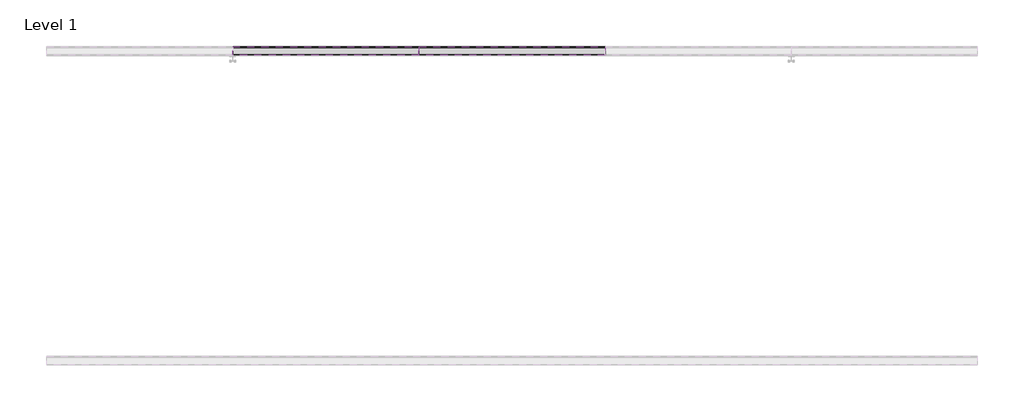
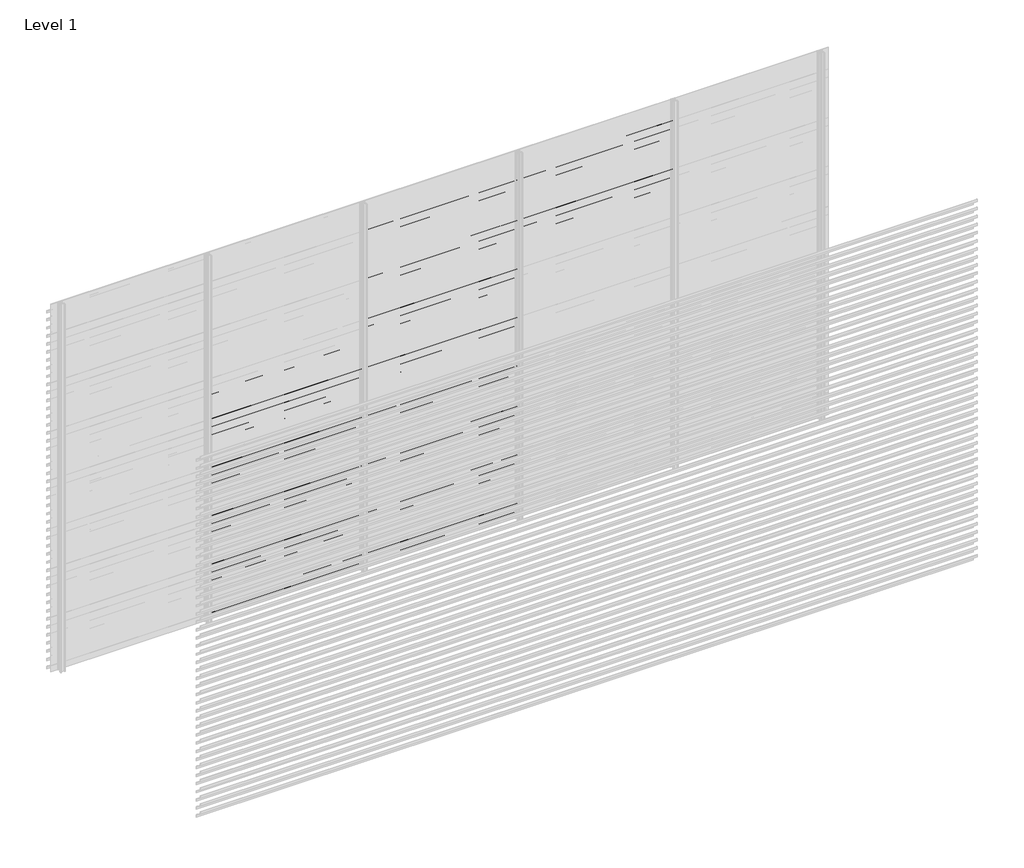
# One storey, part 32 of 540: 84 proxies.
"""IFC4 building model written with IfcOpenShell, lengths in millimetres."""

from ifc_helpers import new_model, si_unit, frame, origin, place, context, project, spatial, polyline, outline, extrude, element, save

model = new_model("IFC4")

# Units and contexts
model_context = context("Model", 3, world=origin())
ifc_project = project(units=[si_unit("LENGTHUNIT", "METRE", prefix="MILLI")], contexts=[model_context])

# Site, building, storey
site = spatial("IfcSite", under=ifc_project)
building = spatial("IfcBuilding", under=site)
storey = spatial("IfcBuildingStorey", under=building, Name="Level 1", Elevation=0.0)

# Proxies
placement = place(None, origin())
element("IfcBuildingElementProxy", 1, Name="Wall Sweeps", at=placement, inside=storey, context=model_context, shape_type="SweptSolid", body=[
    extrude(outline(polyline([(21581.0540136, 1791.5), (21581.0540136, 1771.5), (21579.8040136, 1772.2216933), (21579.8040136, 1790.7872415), (21526.0540136, 1828.3158044), (21526.0540136, 1848.0), (21527.3040136, 1848.0), (21527.3040136, 1829.0285629), (21581.0540136, 1791.5)])), frame((1666.6208099, 0.0, 0.0), z_axis=(1.0, 0.0, 0.0), x_axis=(0.0, 1.0, 0.0)), (0.0, 0.0, 1.0), 1199.9999999),
])
element("IfcBuildingElementProxy", 2, Name="Wall Sweeps", at=placement, inside=storey, context=model_context, shape_type="SweptSolid", body=[
    extrude(outline(polyline([(21581.0540136, 1725.5), (21581.0540136, 1705.5), (21579.8040136, 1706.2216933), (21579.8040136, 1724.7872415), (21526.0540136, 1762.3158044), (21526.0540136, 1782.0), (21527.3040136, 1782.0), (21527.3040136, 1763.0285629), (21581.0540136, 1725.5)])), frame((1666.6208099, 0.0, 0.0), z_axis=(1.0, 0.0, 0.0), x_axis=(0.0, 1.0, 0.0)), (0.0, 0.0, 1.0), 1199.9999999),
])
element("IfcBuildingElementProxy", 3, Name="Wall Sweeps", at=placement, inside=storey, context=model_context, shape_type="SweptSolid", body=[
    extrude(outline(polyline([(21581.0540136, 1659.5), (21581.0540136, 1639.5), (21579.8040136, 1640.2216933), (21579.8040136, 1658.7872415), (21526.0540136, 1696.3158044), (21526.0540136, 1716.0), (21527.3040136, 1716.0), (21527.3040136, 1697.0285629), (21581.0540136, 1659.5)])), frame((1666.6208099, 0.0, 0.0), z_axis=(1.0, 0.0, 0.0), x_axis=(0.0, 1.0, 0.0)), (0.0, 0.0, 1.0), 1199.9999999),
])
element("IfcBuildingElementProxy", 4, Name="Wall Sweeps", at=placement, inside=storey, context=model_context, shape_type="SweptSolid", body=[
    extrude(outline(polyline([(21581.0540136, 1593.5), (21581.0540136, 1573.5), (21579.8040136, 1574.2216933), (21579.8040136, 1592.7872415), (21526.0540136, 1630.3158044), (21526.0540136, 1650.0), (21527.3040136, 1650.0), (21527.3040136, 1631.0285629), (21581.0540136, 1593.5)])), frame((1666.6208099, 0.0, 0.0), z_axis=(1.0, 0.0, 0.0), x_axis=(0.0, 1.0, 0.0)), (0.0, 0.0, 1.0), 1199.9999999),
])
element("IfcBuildingElementProxy", 5, Name="Wall Sweeps", at=placement, inside=storey, context=model_context, shape_type="SweptSolid", body=[
    extrude(outline(polyline([(21581.0540136, 1527.5), (21581.0540136, 1507.5), (21579.8040136, 1508.2216933), (21579.8040136, 1526.7872415), (21526.0540136, 1564.3158044), (21526.0540136, 1584.0), (21527.3040136, 1584.0), (21527.3040136, 1565.0285629), (21581.0540136, 1527.5)])), frame((1666.6208099, 0.0, 0.0), z_axis=(1.0, 0.0, 0.0), x_axis=(0.0, 1.0, 0.0)), (0.0, 0.0, 1.0), 1199.9999999),
])
element("IfcBuildingElementProxy", 6, Name="Wall Sweeps", at=placement, inside=storey, context=model_context, shape_type="SweptSolid", body=[
    extrude(outline(polyline([(21581.0540136, 1461.5), (21581.0540136, 1441.5), (21579.8040136, 1442.2216933), (21579.8040136, 1460.7872415), (21526.0540136, 1498.3158044), (21526.0540136, 1518.0), (21527.3040136, 1518.0), (21527.3040136, 1499.0285629), (21581.0540136, 1461.5)])), frame((1666.6208099, 0.0, 0.0), z_axis=(1.0, 0.0, 0.0), x_axis=(0.0, 1.0, 0.0)), (0.0, 0.0, 1.0), 1199.9999999),
])
element("IfcBuildingElementProxy", 7, Name="Wall Sweeps", at=placement, inside=storey, context=model_context, shape_type="SweptSolid", body=[
    extrude(outline(polyline([(21581.0540136, 1395.5), (21581.0540136, 1375.5), (21579.8040136, 1376.2216933), (21579.8040136, 1394.7872415), (21526.0540136, 1432.3158044), (21526.0540136, 1452.0), (21527.3040136, 1452.0), (21527.3040136, 1433.0285629), (21581.0540136, 1395.5)])), frame((1666.6208099, 0.0, 0.0), z_axis=(1.0, 0.0, 0.0), x_axis=(0.0, 1.0, 0.0)), (0.0, 0.0, 1.0), 1199.9999999),
])
element("IfcBuildingElementProxy", 8, Name="Wall Sweeps", at=placement, inside=storey, context=model_context, shape_type="SweptSolid", body=[
    extrude(outline(polyline([(21581.0540136, 1329.5), (21581.0540136, 1309.5), (21579.8040136, 1310.2216933), (21579.8040136, 1328.7872415), (21526.0540136, 1366.3158044), (21526.0540136, 1386.0), (21527.3040136, 1386.0), (21527.3040136, 1367.0285629), (21581.0540136, 1329.5)])), frame((1666.6208099, 0.0, 0.0), z_axis=(1.0, 0.0, 0.0), x_axis=(0.0, 1.0, 0.0)), (0.0, 0.0, 1.0), 1199.9999999),
])
element("IfcBuildingElementProxy", 9, Name="Wall Sweeps", at=placement, inside=storey, context=model_context, shape_type="SweptSolid", body=[
    extrude(outline(polyline([(21581.0540136, 1263.5), (21581.0540136, 1243.5), (21579.8040136, 1244.2216933), (21579.8040136, 1262.7872415), (21526.0540136, 1300.3158044), (21526.0540136, 1320.0), (21527.3040136, 1320.0), (21527.3040136, 1301.0285629), (21581.0540136, 1263.5)])), frame((1666.6208099, 0.0, 0.0), z_axis=(1.0, 0.0, 0.0), x_axis=(0.0, 1.0, 0.0)), (0.0, 0.0, 1.0), 1199.9999999),
])
element("IfcBuildingElementProxy", 10, Name="Wall Sweeps", at=placement, inside=storey, context=model_context, shape_type="SweptSolid", body=[
    extrude(outline(polyline([(21581.0540136, 1197.5), (21581.0540136, 1177.5), (21579.8040136, 1178.2216933), (21579.8040136, 1196.7872415), (21526.0540136, 1234.3158044), (21526.0540136, 1254.0), (21527.3040136, 1254.0), (21527.3040136, 1235.0285629), (21581.0540136, 1197.5)])), frame((1666.6208099, 0.0, 0.0), z_axis=(1.0, 0.0, 0.0), x_axis=(0.0, 1.0, 0.0)), (0.0, 0.0, 1.0), 1199.9999999),
])
element("IfcBuildingElementProxy", 11, Name="Wall Sweeps", at=placement, inside=storey, context=model_context, shape_type="SweptSolid", body=[
    extrude(outline(polyline([(21581.0540136, 1131.5), (21581.0540136, 1111.5), (21579.8040136, 1112.2216933), (21579.8040136, 1130.7872415), (21526.0540136, 1168.3158044), (21526.0540136, 1188.0), (21527.3040136, 1188.0), (21527.3040136, 1169.0285629), (21581.0540136, 1131.5)])), frame((1666.6208099, 0.0, 0.0), z_axis=(1.0, 0.0, 0.0), x_axis=(0.0, 1.0, 0.0)), (0.0, 0.0, 1.0), 1199.9999999),
])
element("IfcBuildingElementProxy", 12, Name="Wall Sweeps", at=placement, inside=storey, context=model_context, shape_type="SweptSolid", body=[
    extrude(outline(polyline([(21581.0540136, 1065.5), (21581.0540136, 1045.5), (21579.8040136, 1046.2216933), (21579.8040136, 1064.7872415), (21526.0540136, 1102.3158044), (21526.0540136, 1122.0), (21527.3040136, 1122.0), (21527.3040136, 1103.0285629), (21581.0540136, 1065.5)])), frame((1666.6208099, 0.0, 0.0), z_axis=(1.0, 0.0, 0.0), x_axis=(0.0, 1.0, 0.0)), (0.0, 0.0, 1.0), 1199.9999999),
])
element("IfcBuildingElementProxy", 13, Name="Wall Sweeps", at=placement, inside=storey, context=model_context, shape_type="SweptSolid", body=[
    extrude(outline(polyline([(21581.0540136, 999.5), (21581.0540136, 979.5), (21579.8040136, 980.2216933), (21579.8040136, 998.7872415), (21526.0540136, 1036.3158044), (21526.0540136, 1056.0), (21527.3040136, 1056.0), (21527.3040136, 1037.0285629), (21581.0540136, 999.5)])), frame((1666.6208099, 0.0, 0.0), z_axis=(1.0, 0.0, 0.0), x_axis=(0.0, 1.0, 0.0)), (0.0, 0.0, 1.0), 1199.9999999),
])
element("IfcBuildingElementProxy", 14, Name="Wall Sweeps", at=placement, inside=storey, context=model_context, shape_type="SweptSolid", body=[
    extrude(outline(polyline([(21581.0540136, 933.5), (21581.0540136, 913.5), (21579.8040136, 914.2216933), (21579.8040136, 932.7872415), (21526.0540136, 970.3158044), (21526.0540136, 990.0), (21527.3040136, 990.0), (21527.3040136, 971.0285629), (21581.0540136, 933.5)])), frame((1666.6208099, 0.0, 0.0), z_axis=(1.0, 0.0, 0.0), x_axis=(0.0, 1.0, 0.0)), (0.0, 0.0, 1.0), 1199.9999999),
])
element("IfcBuildingElementProxy", 15, Name="Wall Sweeps", at=placement, inside=storey, context=model_context, shape_type="SweptSolid", body=[
    extrude(outline(polyline([(21581.0540136, 867.5), (21581.0540136, 847.5), (21579.8040136, 848.2216933), (21579.8040136, 866.7872415), (21526.0540136, 904.3158044), (21526.0540136, 924.0), (21527.3040136, 924.0), (21527.3040136, 905.0285629), (21581.0540136, 867.5)])), frame((1666.6208099, 0.0, 0.0), z_axis=(1.0, 0.0, 0.0), x_axis=(0.0, 1.0, 0.0)), (0.0, 0.0, 1.0), 1199.9999999),
])
element("IfcBuildingElementProxy", 16, Name="Wall Sweeps", at=placement, inside=storey, context=model_context, shape_type="SweptSolid", body=[
    extrude(outline(polyline([(21581.0540136, 801.5), (21581.0540136, 781.5), (21579.8040136, 782.2216933), (21579.8040136, 800.7872415), (21526.0540136, 838.3158044), (21526.0540136, 858.0), (21527.3040136, 858.0), (21527.3040136, 839.0285629), (21581.0540136, 801.5)])), frame((1666.6208099, 0.0, 0.0), z_axis=(1.0, 0.0, 0.0), x_axis=(0.0, 1.0, 0.0)), (0.0, 0.0, 1.0), 1199.9999999),
])
element("IfcBuildingElementProxy", 17, Name="Wall Sweeps", at=placement, inside=storey, context=model_context, shape_type="SweptSolid", body=[
    extrude(outline(polyline([(21581.0540136, 735.5), (21581.0540136, 715.5), (21579.8040136, 716.2216933), (21579.8040136, 734.7872415), (21526.0540136, 772.3158044), (21526.0540136, 792.0), (21527.3040136, 792.0), (21527.3040136, 773.0285629), (21581.0540136, 735.5)])), frame((1666.6208099, 0.0, 0.0), z_axis=(1.0, 0.0, 0.0), x_axis=(0.0, 1.0, 0.0)), (0.0, 0.0, 1.0), 1199.9999999),
])
element("IfcBuildingElementProxy", 18, Name="Wall Sweeps", at=placement, inside=storey, context=model_context, shape_type="SweptSolid", body=[
    extrude(outline(polyline([(21581.0540136, 669.5), (21581.0540136, 649.5), (21579.8040136, 650.2216933), (21579.8040136, 668.7872415), (21526.0540136, 706.3158044), (21526.0540136, 726.0), (21527.3040136, 726.0), (21527.3040136, 707.0285629), (21581.0540136, 669.5)])), frame((1666.6208099, 0.0, 0.0), z_axis=(1.0, 0.0, 0.0), x_axis=(0.0, 1.0, 0.0)), (0.0, 0.0, 1.0), 1199.9999999),
])
element("IfcBuildingElementProxy", 19, Name="Wall Sweeps", at=placement, inside=storey, context=model_context, shape_type="SweptSolid", body=[
    extrude(outline(polyline([(21581.0540136, 603.5), (21581.0540136, 583.5), (21579.8040136, 584.2216933), (21579.8040136, 602.7872415), (21526.0540136, 640.3158044), (21526.0540136, 660.0), (21527.3040136, 660.0), (21527.3040136, 641.0285629), (21581.0540136, 603.5)])), frame((1666.6208099, 0.0, 0.0), z_axis=(1.0, 0.0, 0.0), x_axis=(0.0, 1.0, 0.0)), (0.0, 0.0, 1.0), 1199.9999999),
])
element("IfcBuildingElementProxy", 20, Name="Wall Sweeps", at=placement, inside=storey, context=model_context, shape_type="SweptSolid", body=[
    extrude(outline(polyline([(21581.0540136, 537.5), (21581.0540136, 517.5), (21579.8040136, 518.2216933), (21579.8040136, 536.7872415), (21526.0540136, 574.3158044), (21526.0540136, 594.0), (21527.3040136, 594.0), (21527.3040136, 575.0285629), (21581.0540136, 537.5)])), frame((1666.6208099, 0.0, 0.0), z_axis=(1.0, 0.0, 0.0), x_axis=(0.0, 1.0, 0.0)), (0.0, 0.0, 1.0), 1199.9999999),
])
element("IfcBuildingElementProxy", 21, Name="Wall Sweeps", at=placement, inside=storey, context=model_context, shape_type="SweptSolid", body=[
    extrude(outline(polyline([(21581.0540136, 471.5), (21581.0540136, 451.5), (21579.8040136, 452.2216933), (21579.8040136, 470.7872415), (21526.0540136, 508.3158044), (21526.0540136, 528.0), (21527.3040136, 528.0), (21527.3040136, 509.0285629), (21581.0540136, 471.5)])), frame((1666.6208099, 0.0, 0.0), z_axis=(1.0, 0.0, 0.0), x_axis=(0.0, 1.0, 0.0)), (0.0, 0.0, 1.0), 1199.9999999),
])
element("IfcBuildingElementProxy", 22, Name="Wall Sweeps", at=placement, inside=storey, context=model_context, shape_type="SweptSolid", body=[
    extrude(outline(polyline([(21581.0540136, 405.5), (21581.0540136, 385.5), (21579.8040136, 386.2216933), (21579.8040136, 404.7872415), (21526.0540136, 442.3158044), (21526.0540136, 462.0), (21527.3040136, 462.0), (21527.3040136, 443.0285629), (21581.0540136, 405.5)])), frame((1666.6208099, 0.0, 0.0), z_axis=(1.0, 0.0, 0.0), x_axis=(0.0, 1.0, 0.0)), (0.0, 0.0, 1.0), 1199.9999999),
])
element("IfcBuildingElementProxy", 23, Name="Wall Sweeps", at=placement, inside=storey, context=model_context, shape_type="SweptSolid", body=[
    extrude(outline(polyline([(21581.0540136, 339.5), (21581.0540136, 319.5), (21579.8040136, 320.2216933), (21579.8040136, 338.7872415), (21526.0540136, 376.3158044), (21526.0540136, 396.0), (21527.3040136, 396.0), (21527.3040136, 377.0285629), (21581.0540136, 339.5)])), frame((1666.6208099, 0.0, 0.0), z_axis=(1.0, 0.0, 0.0), x_axis=(0.0, 1.0, 0.0)), (0.0, 0.0, 1.0), 1199.9999999),
])
element("IfcBuildingElementProxy", 24, Name="Wall Sweeps", at=placement, inside=storey, context=model_context, shape_type="SweptSolid", body=[
    extrude(outline(polyline([(21581.0540136, 273.5), (21581.0540136, 253.5), (21579.8040136, 254.2216933), (21579.8040136, 272.7872415), (21526.0540136, 310.3158044), (21526.0540136, 330.0), (21527.3040136, 330.0), (21527.3040136, 311.0285629), (21581.0540136, 273.5)])), frame((1666.6208099, 0.0, 0.0), z_axis=(1.0, 0.0, 0.0), x_axis=(0.0, 1.0, 0.0)), (0.0, 0.0, 1.0), 1199.9999999),
])
element("IfcBuildingElementProxy", 25, Name="Wall Sweeps", at=placement, inside=storey, context=model_context, shape_type="SweptSolid", body=[
    extrude(outline(polyline([(21581.0540136, 207.5), (21581.0540136, 187.5), (21579.8040136, 188.2216933), (21579.8040136, 206.7872415), (21526.0540136, 244.3158044), (21526.0540136, 264.0), (21527.3040136, 264.0), (21527.3040136, 245.0285629), (21581.0540136, 207.5)])), frame((1666.6208099, 0.0, 0.0), z_axis=(1.0, 0.0, 0.0), x_axis=(0.0, 1.0, 0.0)), (0.0, 0.0, 1.0), 1199.9999999),
])
element("IfcBuildingElementProxy", 26, Name="Wall Sweeps", at=placement, inside=storey, context=model_context, shape_type="SweptSolid", body=[
    extrude(outline(polyline([(21581.0540136, 141.5), (21581.0540136, 121.5), (21579.8040136, 122.2216933), (21579.8040136, 140.7872415), (21526.0540136, 178.3158044), (21526.0540136, 198.0), (21527.3040136, 198.0), (21527.3040136, 179.0285629), (21581.0540136, 141.5)])), frame((1666.6208099, 0.0, 0.0), z_axis=(1.0, 0.0, 0.0), x_axis=(0.0, 1.0, 0.0)), (0.0, 0.0, 1.0), 1199.9999999),
])
element("IfcBuildingElementProxy", 27, Name="Wall Sweeps", at=placement, inside=storey, context=model_context, shape_type="SweptSolid", body=[
    extrude(outline(polyline([(21581.0540136, 75.5), (21581.0540136, 55.5), (21579.8040136, 56.2216933), (21579.8040136, 74.7872415), (21526.0540136, 112.3158044), (21526.0540136, 132.0), (21527.3040136, 132.0), (21527.3040136, 113.0285629), (21581.0540136, 75.5)])), frame((1666.6208099, 0.0, 0.0), z_axis=(1.0, 0.0, 0.0), x_axis=(0.0, 1.0, 0.0)), (0.0, 0.0, 1.0), 1199.9999999),
])
element("IfcBuildingElementProxy", 28, Name="Wall Sweeps", at=placement, inside=storey, context=model_context, shape_type="SweptSolid", body=[
    extrude(outline(polyline([(21581.0540136, 9.5), (21581.0540136, -10.5), (21579.8040136, -9.7783067), (21579.8040136, 8.7872415), (21526.0540136, 46.3158044), (21526.0540136, 66.0), (21527.3040136, 66.0), (21527.3040136, 47.0285629), (21581.0540136, 9.5)])), frame((1666.6208099, 0.0, 0.0), z_axis=(1.0, 0.0, 0.0), x_axis=(0.0, 1.0, 0.0)), (0.0, 0.0, 1.0), 1199.9999999),
])
element("IfcBuildingElementProxy", 29, Name="Wall Sweeps", at=placement, inside=storey, context=model_context, shape_type="SweptSolid", body=[
    extrude(outline(polyline([(21581.0540136, 2913.5), (21581.0540136, 2893.5), (21579.8040136, 2894.2216933), (21579.8040136, 2912.7872415), (21526.0540136, 2950.3158044), (21526.0540136, 2970.0), (21527.3040136, 2970.0), (21527.3040136, 2951.0285629), (21581.0540136, 2913.5)])), frame((2866.6208097, 0.0, 0.0), z_axis=(1.0, 0.0, 0.0), x_axis=(0.0, 1.0, 0.0)), (0.0, 0.0, 1.0), 1199.9999999),
])
element("IfcBuildingElementProxy", 30, Name="Wall Sweeps", at=placement, inside=storey, context=model_context, shape_type="SweptSolid", body=[
    extrude(outline(polyline([(21581.0540136, 2847.5), (21581.0540136, 2827.5), (21579.8040136, 2828.2216933), (21579.8040136, 2846.7872415), (21526.0540136, 2884.3158044), (21526.0540136, 2904.0), (21527.3040136, 2904.0), (21527.3040136, 2885.0285629), (21581.0540136, 2847.5)])), frame((2866.6208097, 0.0, 0.0), z_axis=(1.0, 0.0, 0.0), x_axis=(0.0, 1.0, 0.0)), (0.0, 0.0, 1.0), 1199.9999999),
])
element("IfcBuildingElementProxy", 31, Name="Wall Sweeps", at=placement, inside=storey, context=model_context, shape_type="SweptSolid", body=[
    extrude(outline(polyline([(21581.0540136, 2781.5), (21581.0540136, 2761.5), (21579.8040136, 2762.2216933), (21579.8040136, 2780.7872415), (21526.0540136, 2818.3158044), (21526.0540136, 2838.0), (21527.3040136, 2838.0), (21527.3040136, 2819.0285629), (21581.0540136, 2781.5)])), frame((2866.6208097, 0.0, 0.0), z_axis=(1.0, 0.0, 0.0), x_axis=(0.0, 1.0, 0.0)), (0.0, 0.0, 1.0), 1199.9999999),
])
element("IfcBuildingElementProxy", 32, Name="Wall Sweeps", at=placement, inside=storey, context=model_context, shape_type="SweptSolid", body=[
    extrude(outline(polyline([(21581.0540136, 2715.5), (21581.0540136, 2695.5), (21579.8040136, 2696.2216933), (21579.8040136, 2714.7872415), (21526.0540136, 2752.3158044), (21526.0540136, 2772.0), (21527.3040136, 2772.0), (21527.3040136, 2753.0285629), (21581.0540136, 2715.5)])), frame((2866.6208097, 0.0, 0.0), z_axis=(1.0, 0.0, 0.0), x_axis=(0.0, 1.0, 0.0)), (0.0, 0.0, 1.0), 1199.9999999),
])
element("IfcBuildingElementProxy", 33, Name="Wall Sweeps", at=placement, inside=storey, context=model_context, shape_type="SweptSolid", body=[
    extrude(outline(polyline([(21581.0540136, 2649.5), (21581.0540136, 2629.5), (21579.8040136, 2630.2216933), (21579.8040136, 2648.7872415), (21526.0540136, 2686.3158044), (21526.0540136, 2706.0), (21527.3040136, 2706.0), (21527.3040136, 2687.0285629), (21581.0540136, 2649.5)])), frame((2866.6208097, 0.0, 0.0), z_axis=(1.0, 0.0, 0.0), x_axis=(0.0, 1.0, 0.0)), (0.0, 0.0, 1.0), 1199.9999999),
])
element("IfcBuildingElementProxy", 34, Name="Wall Sweeps", at=placement, inside=storey, context=model_context, shape_type="SweptSolid", body=[
    extrude(outline(polyline([(21581.0540136, 2583.5), (21581.0540136, 2563.5), (21579.8040136, 2564.2216933), (21579.8040136, 2582.7872415), (21526.0540136, 2620.3158044), (21526.0540136, 2640.0), (21527.3040136, 2640.0), (21527.3040136, 2621.0285629), (21581.0540136, 2583.5)])), frame((2866.6208097, 0.0, 0.0), z_axis=(1.0, 0.0, 0.0), x_axis=(0.0, 1.0, 0.0)), (0.0, 0.0, 1.0), 1199.9999999),
])
element("IfcBuildingElementProxy", 35, Name="Wall Sweeps", at=placement, inside=storey, context=model_context, shape_type="SweptSolid", body=[
    extrude(outline(polyline([(21581.0540136, 2517.5), (21581.0540136, 2497.5), (21579.8040136, 2498.2216933), (21579.8040136, 2516.7872415), (21526.0540136, 2554.3158044), (21526.0540136, 2574.0), (21527.3040136, 2574.0), (21527.3040136, 2555.0285629), (21581.0540136, 2517.5)])), frame((2866.6208097, 0.0, 0.0), z_axis=(1.0, 0.0, 0.0), x_axis=(0.0, 1.0, 0.0)), (0.0, 0.0, 1.0), 1199.9999999),
])
element("IfcBuildingElementProxy", 36, Name="Wall Sweeps", at=placement, inside=storey, context=model_context, shape_type="SweptSolid", body=[
    extrude(outline(polyline([(21581.0540136, 2451.5), (21581.0540136, 2431.5), (21579.8040136, 2432.2216933), (21579.8040136, 2450.7872415), (21526.0540136, 2488.3158044), (21526.0540136, 2508.0), (21527.3040136, 2508.0), (21527.3040136, 2489.0285629), (21581.0540136, 2451.5)])), frame((2866.6208097, 0.0, 0.0), z_axis=(1.0, 0.0, 0.0), x_axis=(0.0, 1.0, 0.0)), (0.0, 0.0, 1.0), 1199.9999999),
])
element("IfcBuildingElementProxy", 37, Name="Wall Sweeps", at=placement, inside=storey, context=model_context, shape_type="SweptSolid", body=[
    extrude(outline(polyline([(21581.0540136, 2385.5), (21581.0540136, 2365.5), (21579.8040136, 2366.2216933), (21579.8040136, 2384.7872415), (21526.0540136, 2422.3158044), (21526.0540136, 2442.0), (21527.3040136, 2442.0), (21527.3040136, 2423.0285629), (21581.0540136, 2385.5)])), frame((2866.6208097, 0.0, 0.0), z_axis=(1.0, 0.0, 0.0), x_axis=(0.0, 1.0, 0.0)), (0.0, 0.0, 1.0), 1199.9999999),
])
element("IfcBuildingElementProxy", 38, Name="Wall Sweeps", at=placement, inside=storey, context=model_context, shape_type="SweptSolid", body=[
    extrude(outline(polyline([(21581.0540136, 2319.5), (21581.0540136, 2299.5), (21579.8040136, 2300.2216933), (21579.8040136, 2318.7872415), (21526.0540136, 2356.3158044), (21526.0540136, 2376.0), (21527.3040136, 2376.0), (21527.3040136, 2357.0285629), (21581.0540136, 2319.5)])), frame((2866.6208097, 0.0, 0.0), z_axis=(1.0, 0.0, 0.0), x_axis=(0.0, 1.0, 0.0)), (0.0, 0.0, 1.0), 1199.9999999),
])
element("IfcBuildingElementProxy", 39, Name="Wall Sweeps", at=placement, inside=storey, context=model_context, shape_type="SweptSolid", body=[
    extrude(outline(polyline([(21581.0540136, 2253.5), (21581.0540136, 2233.5), (21579.8040136, 2234.2216933), (21579.8040136, 2252.7872415), (21526.0540136, 2290.3158044), (21526.0540136, 2310.0), (21527.3040136, 2310.0), (21527.3040136, 2291.0285629), (21581.0540136, 2253.5)])), frame((2866.6208097, 0.0, 0.0), z_axis=(1.0, 0.0, 0.0), x_axis=(0.0, 1.0, 0.0)), (0.0, 0.0, 1.0), 1199.9999999),
])
element("IfcBuildingElementProxy", 40, Name="Wall Sweeps", at=placement, inside=storey, context=model_context, shape_type="SweptSolid", body=[
    extrude(outline(polyline([(21581.0540136, 2187.5), (21581.0540136, 2167.5), (21579.8040136, 2168.2216933), (21579.8040136, 2186.7872415), (21526.0540136, 2224.3158044), (21526.0540136, 2244.0), (21527.3040136, 2244.0), (21527.3040136, 2225.0285629), (21581.0540136, 2187.5)])), frame((2866.6208097, 0.0, 0.0), z_axis=(1.0, 0.0, 0.0), x_axis=(0.0, 1.0, 0.0)), (0.0, 0.0, 1.0), 1199.9999999),
])
element("IfcBuildingElementProxy", 41, Name="Wall Sweeps", at=placement, inside=storey, context=model_context, shape_type="SweptSolid", body=[
    extrude(outline(polyline([(21581.0540136, 2121.5), (21581.0540136, 2101.5), (21579.8040136, 2102.2216933), (21579.8040136, 2120.7872415), (21526.0540136, 2158.3158044), (21526.0540136, 2178.0), (21527.3040136, 2178.0), (21527.3040136, 2159.0285629), (21581.0540136, 2121.5)])), frame((2866.6208097, 0.0, 0.0), z_axis=(1.0, 0.0, 0.0), x_axis=(0.0, 1.0, 0.0)), (0.0, 0.0, 1.0), 1199.9999999),
])
element("IfcBuildingElementProxy", 42, Name="Wall Sweeps", at=placement, inside=storey, context=model_context, shape_type="SweptSolid", body=[
    extrude(outline(polyline([(21581.0540136, 2055.5), (21581.0540136, 2035.5), (21579.8040136, 2036.2216933), (21579.8040136, 2054.7872415), (21526.0540136, 2092.3158044), (21526.0540136, 2112.0), (21527.3040136, 2112.0), (21527.3040136, 2093.0285629), (21581.0540136, 2055.5)])), frame((2866.6208097, 0.0, 0.0), z_axis=(1.0, 0.0, 0.0), x_axis=(0.0, 1.0, 0.0)), (0.0, 0.0, 1.0), 1199.9999999),
])
element("IfcBuildingElementProxy", 43, Name="Wall Sweeps", at=placement, inside=storey, context=model_context, shape_type="SweptSolid", body=[
    extrude(outline(polyline([(21581.0540136, 1989.5), (21581.0540136, 1969.5), (21579.8040136, 1970.2216933), (21579.8040136, 1988.7872415), (21526.0540136, 2026.3158044), (21526.0540136, 2046.0), (21527.3040136, 2046.0), (21527.3040136, 2027.0285629), (21581.0540136, 1989.5)])), frame((2866.6208097, 0.0, 0.0), z_axis=(1.0, 0.0, 0.0), x_axis=(0.0, 1.0, 0.0)), (0.0, 0.0, 1.0), 1199.9999999),
])
element("IfcBuildingElementProxy", 44, Name="Wall Sweeps", at=placement, inside=storey, context=model_context, shape_type="SweptSolid", body=[
    extrude(outline(polyline([(21581.0540136, 1923.5), (21581.0540136, 1903.5), (21579.8040136, 1904.2216933), (21579.8040136, 1922.7872415), (21526.0540136, 1960.3158044), (21526.0540136, 1980.0), (21527.3040136, 1980.0), (21527.3040136, 1961.0285629), (21581.0540136, 1923.5)])), frame((2866.6208097, 0.0, 0.0), z_axis=(1.0, 0.0, 0.0), x_axis=(0.0, 1.0, 0.0)), (0.0, 0.0, 1.0), 1199.9999999),
])
element("IfcBuildingElementProxy", 45, Name="Wall Sweeps", at=placement, inside=storey, context=model_context, shape_type="SweptSolid", body=[
    extrude(outline(polyline([(21581.0540136, 1857.5), (21581.0540136, 1837.5), (21579.8040136, 1838.2216933), (21579.8040136, 1856.7872415), (21526.0540136, 1894.3158044), (21526.0540136, 1914.0), (21527.3040136, 1914.0), (21527.3040136, 1895.0285629), (21581.0540136, 1857.5)])), frame((2866.6208097, 0.0, 0.0), z_axis=(1.0, 0.0, 0.0), x_axis=(0.0, 1.0, 0.0)), (0.0, 0.0, 1.0), 1199.9999999),
])
element("IfcBuildingElementProxy", 46, Name="Wall Sweeps", at=placement, inside=storey, context=model_context, shape_type="SweptSolid", body=[
    extrude(outline(polyline([(21581.0540136, 1791.5), (21581.0540136, 1771.5), (21579.8040136, 1772.2216933), (21579.8040136, 1790.7872415), (21526.0540136, 1828.3158044), (21526.0540136, 1848.0), (21527.3040136, 1848.0), (21527.3040136, 1829.0285629), (21581.0540136, 1791.5)])), frame((2866.6208097, 0.0, 0.0), z_axis=(1.0, 0.0, 0.0), x_axis=(0.0, 1.0, 0.0)), (0.0, 0.0, 1.0), 1199.9999999),
])
element("IfcBuildingElementProxy", 47, Name="Wall Sweeps", at=placement, inside=storey, context=model_context, shape_type="SweptSolid", body=[
    extrude(outline(polyline([(21581.0540136, 1725.5), (21581.0540136, 1705.5), (21579.8040136, 1706.2216933), (21579.8040136, 1724.7872415), (21526.0540136, 1762.3158044), (21526.0540136, 1782.0), (21527.3040136, 1782.0), (21527.3040136, 1763.0285629), (21581.0540136, 1725.5)])), frame((2866.6208097, 0.0, 0.0), z_axis=(1.0, 0.0, 0.0), x_axis=(0.0, 1.0, 0.0)), (0.0, 0.0, 1.0), 1199.9999999),
])
element("IfcBuildingElementProxy", 48, Name="Wall Sweeps", at=placement, inside=storey, context=model_context, shape_type="SweptSolid", body=[
    extrude(outline(polyline([(21581.0540136, 1659.5), (21581.0540136, 1639.5), (21579.8040136, 1640.2216933), (21579.8040136, 1658.7872415), (21526.0540136, 1696.3158044), (21526.0540136, 1716.0), (21527.3040136, 1716.0), (21527.3040136, 1697.0285629), (21581.0540136, 1659.5)])), frame((2866.6208097, 0.0, 0.0), z_axis=(1.0, 0.0, 0.0), x_axis=(0.0, 1.0, 0.0)), (0.0, 0.0, 1.0), 1199.9999999),
])
element("IfcBuildingElementProxy", 49, Name="Wall Sweeps", at=placement, inside=storey, context=model_context, shape_type="SweptSolid", body=[
    extrude(outline(polyline([(21581.0540136, 1593.5), (21581.0540136, 1573.5), (21579.8040136, 1574.2216933), (21579.8040136, 1592.7872415), (21526.0540136, 1630.3158044), (21526.0540136, 1650.0), (21527.3040136, 1650.0), (21527.3040136, 1631.0285629), (21581.0540136, 1593.5)])), frame((2866.6208097, 0.0, 0.0), z_axis=(1.0, 0.0, 0.0), x_axis=(0.0, 1.0, 0.0)), (0.0, 0.0, 1.0), 1199.9999999),
])
element("IfcBuildingElementProxy", 50, Name="Wall Sweeps", at=placement, inside=storey, context=model_context, shape_type="SweptSolid", body=[
    extrude(outline(polyline([(21581.0540136, 1527.5), (21581.0540136, 1507.5), (21579.8040136, 1508.2216933), (21579.8040136, 1526.7872415), (21526.0540136, 1564.3158044), (21526.0540136, 1584.0), (21527.3040136, 1584.0), (21527.3040136, 1565.0285629), (21581.0540136, 1527.5)])), frame((2866.6208097, 0.0, 0.0), z_axis=(1.0, 0.0, 0.0), x_axis=(0.0, 1.0, 0.0)), (0.0, 0.0, 1.0), 1199.9999999),
])
element("IfcBuildingElementProxy", 51, Name="Wall Sweeps", at=placement, inside=storey, context=model_context, shape_type="SweptSolid", body=[
    extrude(outline(polyline([(21581.0540136, 1461.5), (21581.0540136, 1441.5), (21579.8040136, 1442.2216933), (21579.8040136, 1460.7872415), (21526.0540136, 1498.3158044), (21526.0540136, 1518.0), (21527.3040136, 1518.0), (21527.3040136, 1499.0285629), (21581.0540136, 1461.5)])), frame((2866.6208097, 0.0, 0.0), z_axis=(1.0, 0.0, 0.0), x_axis=(0.0, 1.0, 0.0)), (0.0, 0.0, 1.0), 1199.9999999),
])
element("IfcBuildingElementProxy", 52, Name="Wall Sweeps", at=placement, inside=storey, context=model_context, shape_type="SweptSolid", body=[
    extrude(outline(polyline([(21581.0540136, 1395.5), (21581.0540136, 1375.5), (21579.8040136, 1376.2216933), (21579.8040136, 1394.7872415), (21526.0540136, 1432.3158044), (21526.0540136, 1452.0), (21527.3040136, 1452.0), (21527.3040136, 1433.0285629), (21581.0540136, 1395.5)])), frame((2866.6208097, 0.0, 0.0), z_axis=(1.0, 0.0, 0.0), x_axis=(0.0, 1.0, 0.0)), (0.0, 0.0, 1.0), 1199.9999999),
])
element("IfcBuildingElementProxy", 53, Name="Wall Sweeps", at=placement, inside=storey, context=model_context, shape_type="SweptSolid", body=[
    extrude(outline(polyline([(21581.0540136, 1329.5), (21581.0540136, 1309.5), (21579.8040136, 1310.2216933), (21579.8040136, 1328.7872415), (21526.0540136, 1366.3158044), (21526.0540136, 1386.0), (21527.3040136, 1386.0), (21527.3040136, 1367.0285629), (21581.0540136, 1329.5)])), frame((2866.6208097, 0.0, 0.0), z_axis=(1.0, 0.0, 0.0), x_axis=(0.0, 1.0, 0.0)), (0.0, 0.0, 1.0), 1199.9999999),
])
element("IfcBuildingElementProxy", 54, Name="Wall Sweeps", at=placement, inside=storey, context=model_context, shape_type="SweptSolid", body=[
    extrude(outline(polyline([(21581.0540136, 1263.5), (21581.0540136, 1243.5), (21579.8040136, 1244.2216933), (21579.8040136, 1262.7872415), (21526.0540136, 1300.3158044), (21526.0540136, 1320.0), (21527.3040136, 1320.0), (21527.3040136, 1301.0285629), (21581.0540136, 1263.5)])), frame((2866.6208097, 0.0, 0.0), z_axis=(1.0, 0.0, 0.0), x_axis=(0.0, 1.0, 0.0)), (0.0, 0.0, 1.0), 1199.9999999),
])
element("IfcBuildingElementProxy", 55, Name="Wall Sweeps", at=placement, inside=storey, context=model_context, shape_type="SweptSolid", body=[
    extrude(outline(polyline([(21581.0540136, 1197.5), (21581.0540136, 1177.5), (21579.8040136, 1178.2216933), (21579.8040136, 1196.7872415), (21526.0540136, 1234.3158044), (21526.0540136, 1254.0), (21527.3040136, 1254.0), (21527.3040136, 1235.0285629), (21581.0540136, 1197.5)])), frame((2866.6208097, 0.0, 0.0), z_axis=(1.0, 0.0, 0.0), x_axis=(0.0, 1.0, 0.0)), (0.0, 0.0, 1.0), 1199.9999999),
])
element("IfcBuildingElementProxy", 56, Name="Wall Sweeps", at=placement, inside=storey, context=model_context, shape_type="SweptSolid", body=[
    extrude(outline(polyline([(21581.0540136, 1131.5), (21581.0540136, 1111.5), (21579.8040136, 1112.2216933), (21579.8040136, 1130.7872415), (21526.0540136, 1168.3158044), (21526.0540136, 1188.0), (21527.3040136, 1188.0), (21527.3040136, 1169.0285629), (21581.0540136, 1131.5)])), frame((2866.6208097, 0.0, 0.0), z_axis=(1.0, 0.0, 0.0), x_axis=(0.0, 1.0, 0.0)), (0.0, 0.0, 1.0), 1199.9999999),
])
element("IfcBuildingElementProxy", 57, Name="Wall Sweeps", at=placement, inside=storey, context=model_context, shape_type="SweptSolid", body=[
    extrude(outline(polyline([(21581.0540136, 1065.5), (21581.0540136, 1045.5), (21579.8040136, 1046.2216933), (21579.8040136, 1064.7872415), (21526.0540136, 1102.3158044), (21526.0540136, 1122.0), (21527.3040136, 1122.0), (21527.3040136, 1103.0285629), (21581.0540136, 1065.5)])), frame((2866.6208097, 0.0, 0.0), z_axis=(1.0, 0.0, 0.0), x_axis=(0.0, 1.0, 0.0)), (0.0, 0.0, 1.0), 1199.9999999),
])
element("IfcBuildingElementProxy", 58, Name="Wall Sweeps", at=placement, inside=storey, context=model_context, shape_type="SweptSolid", body=[
    extrude(outline(polyline([(21581.0540136, 999.5), (21581.0540136, 979.5), (21579.8040136, 980.2216933), (21579.8040136, 998.7872415), (21526.0540136, 1036.3158044), (21526.0540136, 1056.0), (21527.3040136, 1056.0), (21527.3040136, 1037.0285629), (21581.0540136, 999.5)])), frame((2866.6208097, 0.0, 0.0), z_axis=(1.0, 0.0, 0.0), x_axis=(0.0, 1.0, 0.0)), (0.0, 0.0, 1.0), 1199.9999999),
])
element("IfcBuildingElementProxy", 59, Name="Wall Sweeps", at=placement, inside=storey, context=model_context, shape_type="SweptSolid", body=[
    extrude(outline(polyline([(21581.0540136, 933.5), (21581.0540136, 913.5), (21579.8040136, 914.2216933), (21579.8040136, 932.7872415), (21526.0540136, 970.3158044), (21526.0540136, 990.0), (21527.3040136, 990.0), (21527.3040136, 971.0285629), (21581.0540136, 933.5)])), frame((2866.6208097, 0.0, 0.0), z_axis=(1.0, 0.0, 0.0), x_axis=(0.0, 1.0, 0.0)), (0.0, 0.0, 1.0), 1199.9999999),
])
element("IfcBuildingElementProxy", 60, Name="Wall Sweeps", at=placement, inside=storey, context=model_context, shape_type="SweptSolid", body=[
    extrude(outline(polyline([(21581.0540136, 867.5), (21581.0540136, 847.5), (21579.8040136, 848.2216933), (21579.8040136, 866.7872415), (21526.0540136, 904.3158044), (21526.0540136, 924.0), (21527.3040136, 924.0), (21527.3040136, 905.0285629), (21581.0540136, 867.5)])), frame((2866.6208097, 0.0, 0.0), z_axis=(1.0, 0.0, 0.0), x_axis=(0.0, 1.0, 0.0)), (0.0, 0.0, 1.0), 1199.9999999),
])
element("IfcBuildingElementProxy", 61, Name="Wall Sweeps", at=placement, inside=storey, context=model_context, shape_type="SweptSolid", body=[
    extrude(outline(polyline([(21581.0540136, 801.5), (21581.0540136, 781.5), (21579.8040136, 782.2216933), (21579.8040136, 800.7872415), (21526.0540136, 838.3158044), (21526.0540136, 858.0), (21527.3040136, 858.0), (21527.3040136, 839.0285629), (21581.0540136, 801.5)])), frame((2866.6208097, 0.0, 0.0), z_axis=(1.0, 0.0, 0.0), x_axis=(0.0, 1.0, 0.0)), (0.0, 0.0, 1.0), 1199.9999999),
])
element("IfcBuildingElementProxy", 62, Name="Wall Sweeps", at=placement, inside=storey, context=model_context, shape_type="SweptSolid", body=[
    extrude(outline(polyline([(21581.0540136, 735.5), (21581.0540136, 715.5), (21579.8040136, 716.2216933), (21579.8040136, 734.7872415), (21526.0540136, 772.3158044), (21526.0540136, 792.0), (21527.3040136, 792.0), (21527.3040136, 773.0285629), (21581.0540136, 735.5)])), frame((2866.6208097, 0.0, 0.0), z_axis=(1.0, 0.0, 0.0), x_axis=(0.0, 1.0, 0.0)), (0.0, 0.0, 1.0), 1199.9999999),
])
element("IfcBuildingElementProxy", 63, Name="Wall Sweeps", at=placement, inside=storey, context=model_context, shape_type="SweptSolid", body=[
    extrude(outline(polyline([(21581.0540136, 669.5), (21581.0540136, 649.5), (21579.8040136, 650.2216933), (21579.8040136, 668.7872415), (21526.0540136, 706.3158044), (21526.0540136, 726.0), (21527.3040136, 726.0), (21527.3040136, 707.0285629), (21581.0540136, 669.5)])), frame((2866.6208097, 0.0, 0.0), z_axis=(1.0, 0.0, 0.0), x_axis=(0.0, 1.0, 0.0)), (0.0, 0.0, 1.0), 1199.9999999),
])
element("IfcBuildingElementProxy", 64, Name="Wall Sweeps", at=placement, inside=storey, context=model_context, shape_type="SweptSolid", body=[
    extrude(outline(polyline([(21581.0540136, 603.5), (21581.0540136, 583.5), (21579.8040136, 584.2216933), (21579.8040136, 602.7872415), (21526.0540136, 640.3158044), (21526.0540136, 660.0), (21527.3040136, 660.0), (21527.3040136, 641.0285629), (21581.0540136, 603.5)])), frame((2866.6208097, 0.0, 0.0), z_axis=(1.0, 0.0, 0.0), x_axis=(0.0, 1.0, 0.0)), (0.0, 0.0, 1.0), 1199.9999999),
])
element("IfcBuildingElementProxy", 65, Name="Wall Sweeps", at=placement, inside=storey, context=model_context, shape_type="SweptSolid", body=[
    extrude(outline(polyline([(21581.0540136, 537.5), (21581.0540136, 517.5), (21579.8040136, 518.2216933), (21579.8040136, 536.7872415), (21526.0540136, 574.3158044), (21526.0540136, 594.0), (21527.3040136, 594.0), (21527.3040136, 575.0285629), (21581.0540136, 537.5)])), frame((2866.6208097, 0.0, 0.0), z_axis=(1.0, 0.0, 0.0), x_axis=(0.0, 1.0, 0.0)), (0.0, 0.0, 1.0), 1199.9999999),
])
element("IfcBuildingElementProxy", 66, Name="Wall Sweeps", at=placement, inside=storey, context=model_context, shape_type="SweptSolid", body=[
    extrude(outline(polyline([(21581.0540136, 471.5), (21581.0540136, 451.5), (21579.8040136, 452.2216933), (21579.8040136, 470.7872415), (21526.0540136, 508.3158044), (21526.0540136, 528.0), (21527.3040136, 528.0), (21527.3040136, 509.0285629), (21581.0540136, 471.5)])), frame((2866.6208097, 0.0, 0.0), z_axis=(1.0, 0.0, 0.0), x_axis=(0.0, 1.0, 0.0)), (0.0, 0.0, 1.0), 1199.9999999),
])
element("IfcBuildingElementProxy", 67, Name="Wall Sweeps", at=placement, inside=storey, context=model_context, shape_type="SweptSolid", body=[
    extrude(outline(polyline([(21581.0540136, 405.5), (21581.0540136, 385.5), (21579.8040136, 386.2216933), (21579.8040136, 404.7872415), (21526.0540136, 442.3158044), (21526.0540136, 462.0), (21527.3040136, 462.0), (21527.3040136, 443.0285629), (21581.0540136, 405.5)])), frame((2866.6208097, 0.0, 0.0), z_axis=(1.0, 0.0, 0.0), x_axis=(0.0, 1.0, 0.0)), (0.0, 0.0, 1.0), 1199.9999999),
])
element("IfcBuildingElementProxy", 68, Name="Wall Sweeps", at=placement, inside=storey, context=model_context, shape_type="SweptSolid", body=[
    extrude(outline(polyline([(21581.0540136, 339.5), (21581.0540136, 319.5), (21579.8040136, 320.2216933), (21579.8040136, 338.7872415), (21526.0540136, 376.3158044), (21526.0540136, 396.0), (21527.3040136, 396.0), (21527.3040136, 377.0285629), (21581.0540136, 339.5)])), frame((2866.6208097, 0.0, 0.0), z_axis=(1.0, 0.0, 0.0), x_axis=(0.0, 1.0, 0.0)), (0.0, 0.0, 1.0), 1199.9999999),
])
element("IfcBuildingElementProxy", 69, Name="Wall Sweeps", at=placement, inside=storey, context=model_context, shape_type="SweptSolid", body=[
    extrude(outline(polyline([(21581.0540136, 273.5), (21581.0540136, 253.5), (21579.8040136, 254.2216933), (21579.8040136, 272.7872415), (21526.0540136, 310.3158044), (21526.0540136, 330.0), (21527.3040136, 330.0), (21527.3040136, 311.0285629), (21581.0540136, 273.5)])), frame((2866.6208097, 0.0, 0.0), z_axis=(1.0, 0.0, 0.0), x_axis=(0.0, 1.0, 0.0)), (0.0, 0.0, 1.0), 1199.9999999),
])
element("IfcBuildingElementProxy", 70, Name="Wall Sweeps", at=placement, inside=storey, context=model_context, shape_type="SweptSolid", body=[
    extrude(outline(polyline([(21581.0540136, 207.5), (21581.0540136, 187.5), (21579.8040136, 188.2216933), (21579.8040136, 206.7872415), (21526.0540136, 244.3158044), (21526.0540136, 264.0), (21527.3040136, 264.0), (21527.3040136, 245.0285629), (21581.0540136, 207.5)])), frame((2866.6208097, 0.0, 0.0), z_axis=(1.0, 0.0, 0.0), x_axis=(0.0, 1.0, 0.0)), (0.0, 0.0, 1.0), 1199.9999999),
])
element("IfcBuildingElementProxy", 71, Name="Wall Sweeps", at=placement, inside=storey, context=model_context, shape_type="SweptSolid", body=[
    extrude(outline(polyline([(21581.0540136, 141.5), (21581.0540136, 121.5), (21579.8040136, 122.2216933), (21579.8040136, 140.7872415), (21526.0540136, 178.3158044), (21526.0540136, 198.0), (21527.3040136, 198.0), (21527.3040136, 179.0285629), (21581.0540136, 141.5)])), frame((2866.6208097, 0.0, 0.0), z_axis=(1.0, 0.0, 0.0), x_axis=(0.0, 1.0, 0.0)), (0.0, 0.0, 1.0), 1199.9999999),
])
element("IfcBuildingElementProxy", 72, Name="Wall Sweeps", at=placement, inside=storey, context=model_context, shape_type="SweptSolid", body=[
    extrude(outline(polyline([(21581.0540136, 75.5), (21581.0540136, 55.5), (21579.8040136, 56.2216933), (21579.8040136, 74.7872415), (21526.0540136, 112.3158044), (21526.0540136, 132.0), (21527.3040136, 132.0), (21527.3040136, 113.0285629), (21581.0540136, 75.5)])), frame((2866.6208097, 0.0, 0.0), z_axis=(1.0, 0.0, 0.0), x_axis=(0.0, 1.0, 0.0)), (0.0, 0.0, 1.0), 1199.9999999),
])
element("IfcBuildingElementProxy", 73, Name="Wall Sweeps", at=placement, inside=storey, context=model_context, shape_type="SweptSolid", body=[
    extrude(outline(polyline([(21581.0540136, 9.5), (21581.0540136, -10.5), (21579.8040136, -9.7783067), (21579.8040136, 8.7872415), (21526.0540136, 46.3158044), (21526.0540136, 66.0), (21527.3040136, 66.0), (21527.3040136, 47.0285629), (21581.0540136, 9.5)])), frame((2866.6208097, 0.0, 0.0), z_axis=(1.0, 0.0, 0.0), x_axis=(0.0, 1.0, 0.0)), (0.0, 0.0, 1.0), 1199.9999999),
])
element("IfcBuildingElementProxy", 74, Name="Wall Sweeps", at=placement, inside=storey, context=model_context, shape_type="SweptSolid", body=[
    extrude(outline(polyline([(21581.0540136, 2913.5), (21581.0540136, 2893.5), (21579.8040136, 2894.2216933), (21579.8040136, 2912.7872415), (21526.0540136, 2950.3158044), (21526.0540136, 2970.0), (21527.3040136, 2970.0), (21527.3040136, 2951.0285629), (21581.0540136, 2913.5)])), frame((4066.6208096, 0.0, 0.0), z_axis=(1.0, 0.0, 0.0), x_axis=(0.0, 1.0, 0.0)), (0.0, 0.0, 1.0), 1199.9999999),
])
element("IfcBuildingElementProxy", 75, Name="Wall Sweeps", at=placement, inside=storey, context=model_context, shape_type="SweptSolid", body=[
    extrude(outline(polyline([(21581.0540136, 2847.5), (21581.0540136, 2827.5), (21579.8040136, 2828.2216933), (21579.8040136, 2846.7872415), (21526.0540136, 2884.3158044), (21526.0540136, 2904.0), (21527.3040136, 2904.0), (21527.3040136, 2885.0285629), (21581.0540136, 2847.5)])), frame((4066.6208096, 0.0, 0.0), z_axis=(1.0, 0.0, 0.0), x_axis=(0.0, 1.0, 0.0)), (0.0, 0.0, 1.0), 1199.9999999),
])
element("IfcBuildingElementProxy", 76, Name="Wall Sweeps", at=placement, inside=storey, context=model_context, shape_type="SweptSolid", body=[
    extrude(outline(polyline([(21581.0540136, 2781.5), (21581.0540136, 2761.5), (21579.8040136, 2762.2216933), (21579.8040136, 2780.7872415), (21526.0540136, 2818.3158044), (21526.0540136, 2838.0), (21527.3040136, 2838.0), (21527.3040136, 2819.0285629), (21581.0540136, 2781.5)])), frame((4066.6208096, 0.0, 0.0), z_axis=(1.0, 0.0, 0.0), x_axis=(0.0, 1.0, 0.0)), (0.0, 0.0, 1.0), 1199.9999999),
])
element("IfcBuildingElementProxy", 77, Name="Wall Sweeps", at=placement, inside=storey, context=model_context, shape_type="SweptSolid", body=[
    extrude(outline(polyline([(21581.0540136, 2715.5), (21581.0540136, 2695.5), (21579.8040136, 2696.2216933), (21579.8040136, 2714.7872415), (21526.0540136, 2752.3158044), (21526.0540136, 2772.0), (21527.3040136, 2772.0), (21527.3040136, 2753.0285629), (21581.0540136, 2715.5)])), frame((4066.6208096, 0.0, 0.0), z_axis=(1.0, 0.0, 0.0), x_axis=(0.0, 1.0, 0.0)), (0.0, 0.0, 1.0), 1199.9999999),
])
element("IfcBuildingElementProxy", 78, Name="Wall Sweeps", at=placement, inside=storey, context=model_context, shape_type="SweptSolid", body=[
    extrude(outline(polyline([(21581.0540136, 2649.5), (21581.0540136, 2629.5), (21579.8040136, 2630.2216933), (21579.8040136, 2648.7872415), (21526.0540136, 2686.3158044), (21526.0540136, 2706.0), (21527.3040136, 2706.0), (21527.3040136, 2687.0285629), (21581.0540136, 2649.5)])), frame((4066.6208096, 0.0, 0.0), z_axis=(1.0, 0.0, 0.0), x_axis=(0.0, 1.0, 0.0)), (0.0, 0.0, 1.0), 1199.9999999),
])
element("IfcBuildingElementProxy", 79, Name="Wall Sweeps", at=placement, inside=storey, context=model_context, shape_type="SweptSolid", body=[
    extrude(outline(polyline([(21581.0540136, 2583.5), (21581.0540136, 2563.5), (21579.8040136, 2564.2216933), (21579.8040136, 2582.7872415), (21526.0540136, 2620.3158044), (21526.0540136, 2640.0), (21527.3040136, 2640.0), (21527.3040136, 2621.0285629), (21581.0540136, 2583.5)])), frame((4066.6208096, 0.0, 0.0), z_axis=(1.0, 0.0, 0.0), x_axis=(0.0, 1.0, 0.0)), (0.0, 0.0, 1.0), 1199.9999999),
])
element("IfcBuildingElementProxy", 80, Name="Wall Sweeps", at=placement, inside=storey, context=model_context, shape_type="SweptSolid", body=[
    extrude(outline(polyline([(21581.0540136, 2517.5), (21581.0540136, 2497.5), (21579.8040136, 2498.2216933), (21579.8040136, 2516.7872415), (21526.0540136, 2554.3158044), (21526.0540136, 2574.0), (21527.3040136, 2574.0), (21527.3040136, 2555.0285629), (21581.0540136, 2517.5)])), frame((4066.6208096, 0.0, 0.0), z_axis=(1.0, 0.0, 0.0), x_axis=(0.0, 1.0, 0.0)), (0.0, 0.0, 1.0), 1199.9999999),
])
element("IfcBuildingElementProxy", 81, Name="Wall Sweeps", at=placement, inside=storey, context=model_context, shape_type="SweptSolid", body=[
    extrude(outline(polyline([(21581.0540136, 2451.5), (21581.0540136, 2431.5), (21579.8040136, 2432.2216933), (21579.8040136, 2450.7872415), (21526.0540136, 2488.3158044), (21526.0540136, 2508.0), (21527.3040136, 2508.0), (21527.3040136, 2489.0285629), (21581.0540136, 2451.5)])), frame((4066.6208096, 0.0, 0.0), z_axis=(1.0, 0.0, 0.0), x_axis=(0.0, 1.0, 0.0)), (0.0, 0.0, 1.0), 1199.9999999),
])
element("IfcBuildingElementProxy", 82, Name="Wall Sweeps", at=placement, inside=storey, context=model_context, shape_type="SweptSolid", body=[
    extrude(outline(polyline([(21581.0540136, 2385.5), (21581.0540136, 2365.5), (21579.8040136, 2366.2216933), (21579.8040136, 2384.7872415), (21526.0540136, 2422.3158044), (21526.0540136, 2442.0), (21527.3040136, 2442.0), (21527.3040136, 2423.0285629), (21581.0540136, 2385.5)])), frame((4066.6208096, 0.0, 0.0), z_axis=(1.0, 0.0, 0.0), x_axis=(0.0, 1.0, 0.0)), (0.0, 0.0, 1.0), 1199.9999999),
])
element("IfcBuildingElementProxy", 83, Name="Wall Sweeps", at=placement, inside=storey, context=model_context, shape_type="SweptSolid", body=[
    extrude(outline(polyline([(21581.0540136, 2319.5), (21581.0540136, 2299.5), (21579.8040136, 2300.2216933), (21579.8040136, 2318.7872415), (21526.0540136, 2356.3158044), (21526.0540136, 2376.0), (21527.3040136, 2376.0), (21527.3040136, 2357.0285629), (21581.0540136, 2319.5)])), frame((4066.6208096, 0.0, 0.0), z_axis=(1.0, 0.0, 0.0), x_axis=(0.0, 1.0, 0.0)), (0.0, 0.0, 1.0), 1199.9999999),
])
element("IfcBuildingElementProxy", 84, Name="Wall Sweeps", at=placement, inside=storey, context=model_context, shape_type="SweptSolid", body=[
    extrude(outline(polyline([(21581.0540136, 2253.5), (21581.0540136, 2233.5), (21579.8040136, 2234.2216933), (21579.8040136, 2252.7872415), (21526.0540136, 2290.3158044), (21526.0540136, 2310.0), (21527.3040136, 2310.0), (21527.3040136, 2291.0285629), (21581.0540136, 2253.5)])), frame((4066.6208096, 0.0, 0.0), z_axis=(1.0, 0.0, 0.0), x_axis=(0.0, 1.0, 0.0)), (0.0, 0.0, 1.0), 1199.9999999),
])

save(model, "model.ifc")
